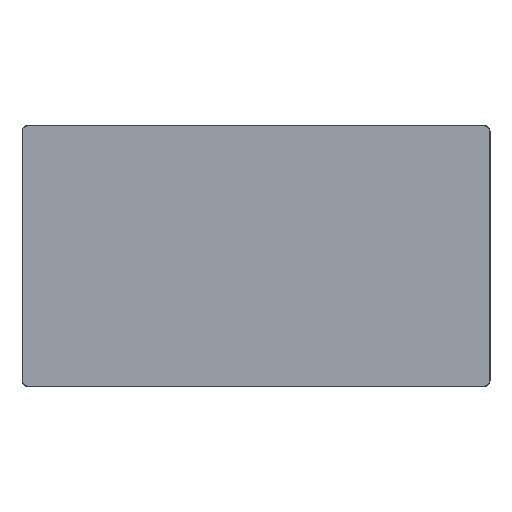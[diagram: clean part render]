
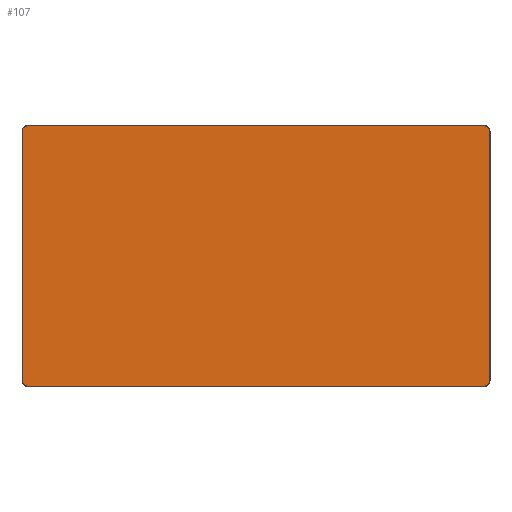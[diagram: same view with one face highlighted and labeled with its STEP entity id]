
A CAD part, top view. The second image highlights one B-rep face of the part: STEP entity #107.
In plain terms, the highlighted planar face has unit normal (0, 0, 1).
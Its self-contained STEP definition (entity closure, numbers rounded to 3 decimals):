
#107=ADVANCED_FACE('',(#439),#4783,.T.);
#439=FACE_OUTER_BOUND('',#771,.T.);
#771=EDGE_LOOP('',(#1166,#1167,#1168,#1169,#1170,#1171,#1172,#1173));
#1166=ORIENTED_EDGE('',*,*,#2646,.F.);
#1167=ORIENTED_EDGE('',*,*,#2627,.F.);
#1168=ORIENTED_EDGE('',*,*,#2640,.F.);
#1169=ORIENTED_EDGE('',*,*,#2629,.F.);
#1170=ORIENTED_EDGE('',*,*,#2637,.F.);
#1171=ORIENTED_EDGE('',*,*,#2628,.F.);
#1172=ORIENTED_EDGE('',*,*,#2633,.F.);
#1173=ORIENTED_EDGE('',*,*,#2626,.F.);
#2626=EDGE_CURVE('',#4094,#4095,#3754,.T.);
#2627=EDGE_CURVE('',#4100,#4096,#3755,.T.);
#2628=EDGE_CURVE('',#4099,#4097,#3756,.T.);
#2629=EDGE_CURVE('',#4098,#4101,#3757,.T.);
#2633=EDGE_CURVE('',#4095,#4099,#3345,.T.);
#2637=EDGE_CURVE('',#4097,#4098,#3349,.T.);
#2640=EDGE_CURVE('',#4101,#4100,#3352,.T.);
#2646=EDGE_CURVE('',#4096,#4094,#3358,.T.);
#3345=(
BOUNDED_CURVE()
B_SPLINE_CURVE(2,(#5355,#5356,#5357),.UNSPECIFIED.,.F.,.F.)
B_SPLINE_CURVE_WITH_KNOTS((3,3),(0.,29.845),
 .UNSPECIFIED.)
CURVE()
GEOMETRIC_REPRESENTATION_ITEM()
RATIONAL_B_SPLINE_CURVE((1.,0.707,1.))
REPRESENTATION_ITEM('')
);
#3349=(
BOUNDED_CURVE()
B_SPLINE_CURVE(2,(#5367,#5368,#5369),.UNSPECIFIED.,.F.,.F.)
B_SPLINE_CURVE_WITH_KNOTS((3,3),(0.,29.845),
 .UNSPECIFIED.)
CURVE()
GEOMETRIC_REPRESENTATION_ITEM()
RATIONAL_B_SPLINE_CURVE((1.,0.707,1.))
REPRESENTATION_ITEM('')
);
#3352=(
BOUNDED_CURVE()
B_SPLINE_CURVE(2,(#5376,#5377,#5378),.UNSPECIFIED.,.F.,.F.)
B_SPLINE_CURVE_WITH_KNOTS((3,3),(0.,29.845),
 .UNSPECIFIED.)
CURVE()
GEOMETRIC_REPRESENTATION_ITEM()
RATIONAL_B_SPLINE_CURVE((1.,0.707,1.))
REPRESENTATION_ITEM('')
);
#3358=(
BOUNDED_CURVE()
B_SPLINE_CURVE(2,(#5394,#5395,#5396),.UNSPECIFIED.,.F.,.F.)
B_SPLINE_CURVE_WITH_KNOTS((3,3),(0.,29.845),
 .UNSPECIFIED.)
CURVE()
GEOMETRIC_REPRESENTATION_ITEM()
RATIONAL_B_SPLINE_CURVE((1.,0.707,1.))
REPRESENTATION_ITEM('')
);
#3754=B_SPLINE_CURVE_WITH_KNOTS('',1,(#5338,#5339),.UNSPECIFIED.,.F.,.F.,
(2,2),(0.,1575.),.UNSPECIFIED.);
#3755=B_SPLINE_CURVE_WITH_KNOTS('',1,(#5340,#5341),.UNSPECIFIED.,.F.,.F.,
(2,2),(0.,860.),.UNSPECIFIED.);
#3756=B_SPLINE_CURVE_WITH_KNOTS('',1,(#5342,#5343),.UNSPECIFIED.,.F.,.F.,
(2,2),(0.,860.),.UNSPECIFIED.);
#3757=B_SPLINE_CURVE_WITH_KNOTS('',1,(#5344,#5345),.UNSPECIFIED.,.F.,.F.,
(2,2),(0.,1575.),.UNSPECIFIED.);
#4094=VERTEX_POINT('',#5266);
#4095=VERTEX_POINT('',#5267);
#4096=VERTEX_POINT('',#5268);
#4097=VERTEX_POINT('',#5269);
#4098=VERTEX_POINT('',#5270);
#4099=VERTEX_POINT('',#5271);
#4100=VERTEX_POINT('',#5272);
#4101=VERTEX_POINT('',#5273);
#4783=PLANE('',#4883);
#4883=AXIS2_PLACEMENT_3D('',#5121,#4966,$);
#4966=DIRECTION('',(0.,0.,1.));
#5121=CARTESIAN_POINT('',(1978.143,1450.299,741.));
#5266=CARTESIAN_POINT('',(2159.644,2439.299,741.));
#5267=CARTESIAN_POINT('',(3734.644,2439.299,741.));
#5268=CARTESIAN_POINT('',(2140.644,2420.299,741.));
#5269=CARTESIAN_POINT('',(3753.644,1560.299,741.));
#5270=CARTESIAN_POINT('',(3734.644,1541.299,741.));
#5271=CARTESIAN_POINT('',(3753.644,2420.299,741.));
#5272=CARTESIAN_POINT('',(2140.644,1560.299,741.));
#5273=CARTESIAN_POINT('',(2159.644,1541.299,741.));
#5338=CARTESIAN_POINT('',(2159.644,2439.299,741.));
#5339=CARTESIAN_POINT('',(3734.644,2439.299,741.));
#5340=CARTESIAN_POINT('',(2140.644,1560.299,741.));
#5341=CARTESIAN_POINT('',(2140.644,2420.299,741.));
#5342=CARTESIAN_POINT('',(3753.644,2420.299,741.));
#5343=CARTESIAN_POINT('',(3753.644,1560.299,741.));
#5344=CARTESIAN_POINT('',(3734.644,1541.299,741.));
#5345=CARTESIAN_POINT('',(2159.644,1541.299,741.));
#5355=CARTESIAN_POINT('',(3734.644,2439.299,741.));
#5356=CARTESIAN_POINT('',(3753.644,2439.299,741.));
#5357=CARTESIAN_POINT('',(3753.644,2420.299,741.));
#5367=CARTESIAN_POINT('',(3753.644,1560.299,741.));
#5368=CARTESIAN_POINT('',(3753.644,1541.299,741.));
#5369=CARTESIAN_POINT('',(3734.644,1541.299,741.));
#5376=CARTESIAN_POINT('',(2159.644,1541.299,741.));
#5377=CARTESIAN_POINT('',(2140.644,1541.299,741.));
#5378=CARTESIAN_POINT('',(2140.644,1560.299,741.));
#5394=CARTESIAN_POINT('',(2140.644,2420.299,741.));
#5395=CARTESIAN_POINT('',(2140.644,2439.299,741.));
#5396=CARTESIAN_POINT('',(2159.644,2439.299,741.));
